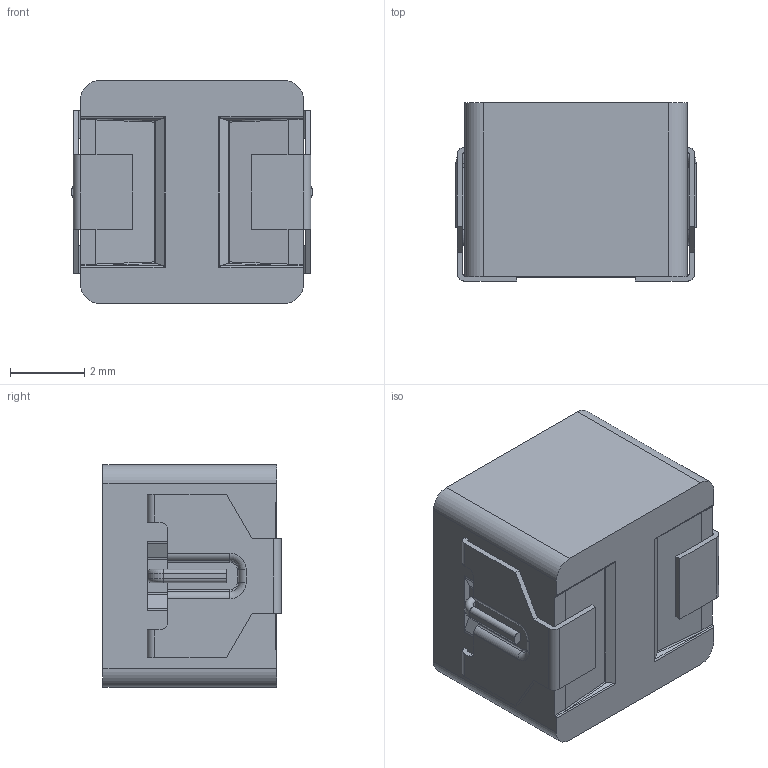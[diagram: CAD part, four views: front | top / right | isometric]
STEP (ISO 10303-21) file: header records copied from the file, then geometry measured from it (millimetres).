
FILE_DESCRIPTION (( 'STEP AP214' ), '1' );
FILE_NAME ('ETQP4M6R8KFN.STEP', '2021-10-11T07:34:41', ( '' ), ( '' ), 'SwSTEP 2.0', 'SolidWorks 2020', '' );
FILE_SCHEMA (( 'AUTOMOTIVE_DESIGN' ));
Length unit declared in the file: millimetre
Products named in the file (1): ETQP4M6R8KFN
Bounding box: 6.48 x 4.8 x 6 mm (x, y, z)
Volume: 169.1 mm3; surface area: 248.4 mm2
Topology: 1 solids, 1 shells, 161 faces, 450 edges, 288 vertices
Faces by surface type: cylinder 76, plane 63, torus 20, cone 2
Entity records: 6997 total; most frequent: CARTESIAN_POINT 972, DIRECTION 910, ORIENTED_EDGE 900, EDGE_CURVE 450, AXIS2_PLACEMENT_3D 322, VERTEX_POINT 288, LINE 266, VECTOR 266
